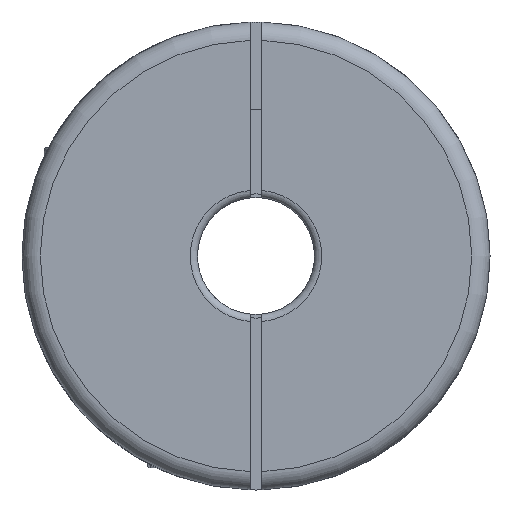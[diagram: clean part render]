
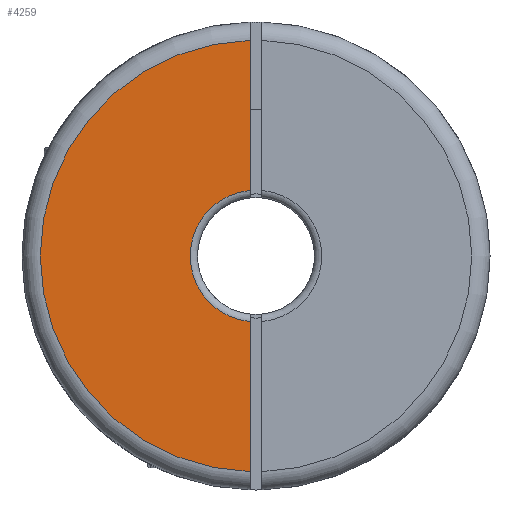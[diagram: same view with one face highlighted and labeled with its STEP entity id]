
A CAD part, left-side view. The second image highlights one B-rep face of the part: STEP entity #4259.
In plain terms, the highlighted planar face has unit normal (-1, 0, 0).
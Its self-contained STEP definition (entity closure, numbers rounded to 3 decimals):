
#117 = DIRECTION ( 'NONE',  ( 0., 0., -1. ) ) ;
#122 = DIRECTION ( 'NONE',  ( 1., 0., 0. ) ) ;
#129 = PLANE ( 'NONE',  #208 ) ;
#172 = CARTESIAN_POINT ( 'NONE',  ( -20.5, 0., 0. ) ) ;
#208 = AXIS2_PLACEMENT_3D ( 'NONE', #172, #122, #117 ) ;
#292 = CIRCLE ( 'NONE', #1466, 4.5 ) ;
#460 = AXIS2_PLACEMENT_3D ( 'NONE', #2026, #2020, #2009 ) ;
#735 = CARTESIAN_POINT ( 'NONE',  ( -20.5, 0.4, -4.482 ) ) ;
#1002 = CARTESIAN_POINT ( 'NONE',  ( -20.5, 0.4, 4.482 ) ) ;
#1207 = FACE_OUTER_BOUND ( 'NONE', #1849, .T. ) ;
#1274 = EDGE_CURVE ( 'NONE', #2804, #2726, #292, .T. ) ;
#1297 = CARTESIAN_POINT ( 'NONE',  ( -20.5, 0.4, 14.745 ) ) ;
#1352 = ORIENTED_EDGE ( 'NONE', *, *, #1274, .T. ) ;
#1359 = ORIENTED_EDGE ( 'NONE', *, *, #3882, .T. ) ;
#1363 = ORIENTED_EDGE ( 'NONE', *, *, #3797, .T. ) ;
#1466 = AXIS2_PLACEMENT_3D ( 'NONE', #3726, #3718, #3709 ) ;
#1788 = DIRECTION ( 'NONE',  ( 0., 0., 1. ) ) ;
#1790 = DIRECTION ( 'NONE',  ( 0., 0., 1. ) ) ;
#1793 = CARTESIAN_POINT ( 'NONE',  ( -20.5, 0.4, 15.995 ) ) ;
#1836 = CARTESIAN_POINT ( 'NONE',  ( -20.5, 0.4, 15.995 ) ) ;
#1849 = EDGE_LOOP ( 'NONE', ( #3765, #1352, #1359, #1363 ) ) ;
#2009 = DIRECTION ( 'NONE',  ( 0., 0., -1. ) ) ;
#2010 = CARTESIAN_POINT ( 'NONE',  ( -20.5, 0.4, -14.745 ) ) ;
#2020 = DIRECTION ( 'NONE',  ( -1., 0., 0. ) ) ;
#2026 = CARTESIAN_POINT ( 'NONE',  ( -20.5, 0., 0. ) ) ;
#2220 = VECTOR ( 'NONE', #1790, 1000. ) ;
#2223 = LINE ( 'NONE', #1836, #2220 ) ;
#2262 = LINE ( 'NONE', #1793, #2265 ) ;
#2265 = VECTOR ( 'NONE', #1788, 1000. ) ;
#2375 = CIRCLE ( 'NONE', #460, 14.75 ) ;
#2639 = VERTEX_POINT ( 'NONE', #2010 ) ;
#2688 = VERTEX_POINT ( 'NONE', #1297 ) ;
#2726 = VERTEX_POINT ( 'NONE', #1002 ) ;
#2804 = VERTEX_POINT ( 'NONE', #735 ) ;
#3709 = DIRECTION ( 'NONE',  ( 0., 0., -1. ) ) ;
#3718 = DIRECTION ( 'NONE',  ( 1., 0., 0. ) ) ;
#3726 = CARTESIAN_POINT ( 'NONE',  ( -20.5, 0., 0. ) ) ;
#3765 = ORIENTED_EDGE ( 'NONE', *, *, #3874, .T. ) ;
#3797 = EDGE_CURVE ( 'NONE', #2688, #2639, #2375, .T. ) ;
#3874 = EDGE_CURVE ( 'NONE', #2639, #2804, #2223, .T. ) ;
#3882 = EDGE_CURVE ( 'NONE', #2726, #2688, #2262, .T. ) ;
#4259 = ADVANCED_FACE ( 'NONE', ( #1207 ), #129, .F. ) ;
